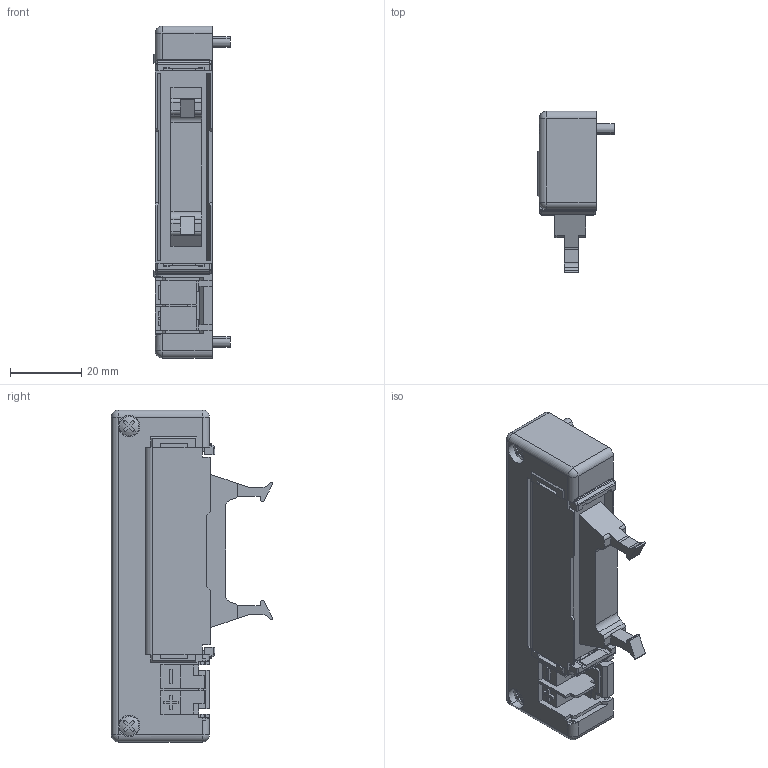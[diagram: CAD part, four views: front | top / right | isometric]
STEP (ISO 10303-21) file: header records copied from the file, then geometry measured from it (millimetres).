
FILE_DESCRIPTION( (''), '2;1');
FILE_NAME ('CVICAD32.25716.FZX-F20x_10622.stp','2020-09-09T09:19:58',(''),(''),'spGate 12.6.6','','');
FILE_SCHEMA (('AUTOMOTIVE_DESIGN'));
Length unit declared in the file: millimetre
Products named in the file (3): Assembly; CVICAD32-prt0; CVICAD32-prt1
Assembly tree (2 placements, depth 2):
  Assembly
    CVICAD32-prt0
    CVICAD32-prt1
Bounding box: 21.4 x 45.2 x 93 mm (x, y, z)
Volume: 34801.3 mm3; surface area: 14959.4 mm2
Topology: 2 solids, 2 shells, 415 faces, 1206 edges, 778 vertices
Faces by surface type: plane 306, cylinder 84, sphere 20, bspline 5
Entity records: 22900 total; most frequent: CARTESIAN_POINT 2603, ORIENTED_EDGE 2380, DIRECTION 2210, COLOUR_RGB 1607, PRESENTATION_STYLE_ASSIGNMENT 1607, STYLED_ITEM 1607, EDGE_CURVE 1190, DRAUGHTING_PRE_DEFINED_CURVE_FONT 1190
